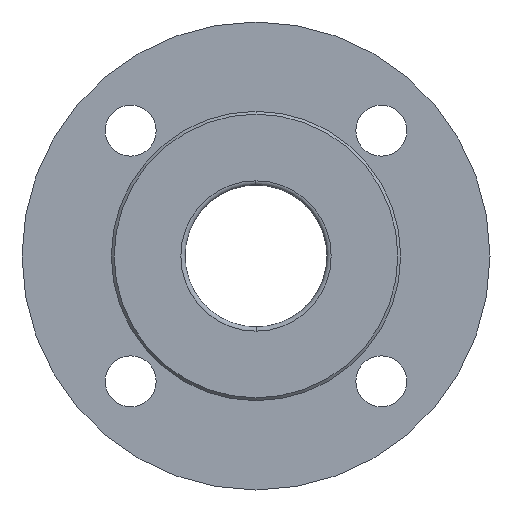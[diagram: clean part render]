
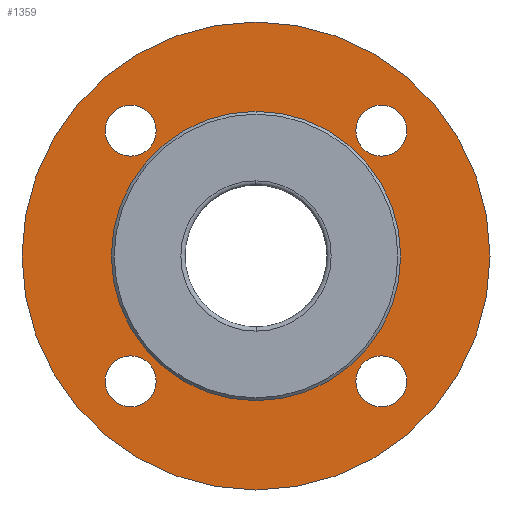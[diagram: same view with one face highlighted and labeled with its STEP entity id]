
A CAD part, left-side view. The second image highlights one B-rep face of the part: STEP entity #1359.
In plain terms, the highlighted planar face has unit normal (-1, 0, 0).
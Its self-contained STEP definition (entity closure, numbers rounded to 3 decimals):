
#239 = VERTEX_POINT ( 'NONE', #685 ) ;
#244 = VERTEX_POINT ( 'NONE', #536 ) ;
#262 = VERTEX_POINT ( 'NONE', #582 ) ;
#264 = VERTEX_POINT ( 'NONE', #718 ) ;
#284 = VERTEX_POINT ( 'NONE', #608 ) ;
#286 = EDGE_CURVE ( 'NONE', #264, #411, #593, .T. ) ;
#347 = EDGE_CURVE ( 'NONE', #389, #262, #823, .T. ) ;
#350 = EDGE_CURVE ( 'NONE', #284, #414, #824, .T. ) ;
#389 = VERTEX_POINT ( 'NONE', #1025 ) ;
#411 = VERTEX_POINT ( 'NONE', #1055 ) ;
#414 = VERTEX_POINT ( 'NONE', #1035 ) ;
#415 = EDGE_CURVE ( 'NONE', #244, #239, #995, .T. ) ;
#458 = VERTEX_POINT ( 'NONE', #1068 ) ;
#486 = EDGE_CURVE ( 'NONE', #529, #528, #1112, .T. ) ;
#488 = VERTEX_POINT ( 'NONE', #1114 ) ;
#528 = VERTEX_POINT ( 'NONE', #1428 ) ;
#529 = VERTEX_POINT ( 'NONE', #1440 ) ;
#536 = CARTESIAN_POINT ( 'NONE',  ( -44.5, 44.194, -35.194 ) ) ;
#582 = CARTESIAN_POINT ( 'NONE',  ( -44.5, -44.194, -53.194 ) ) ;
#593 = CIRCLE ( 'NONE', #631, 9. ) ;
#608 = CARTESIAN_POINT ( 'NONE',  ( -44.5, 44.194, 53.194 ) ) ;
#628 = DIRECTION ( 'NONE',  ( 0., 0., -1. ) ) ;
#629 = DIRECTION ( 'NONE',  ( 1., 0., 0. ) ) ;
#630 = CARTESIAN_POINT ( 'NONE',  ( -44.5, -44.194, 44.194 ) ) ;
#631 = AXIS2_PLACEMENT_3D ( 'NONE', #630, #629, #628 ) ;
#685 = CARTESIAN_POINT ( 'NONE',  ( -44.5, 44.194, -53.194 ) ) ;
#718 = CARTESIAN_POINT ( 'NONE',  ( -44.5, -44.194, 53.194 ) ) ;
#814 = DIRECTION ( 'NONE',  ( 0., 0., -1. ) ) ;
#815 = DIRECTION ( 'NONE',  ( 1., 0., 0. ) ) ;
#816 = CARTESIAN_POINT ( 'NONE',  ( -44.5, 44.194, 44.194 ) ) ;
#817 = AXIS2_PLACEMENT_3D ( 'NONE', #816, #815, #814 ) ;
#819 = DIRECTION ( 'NONE',  ( 0., 0., -1. ) ) ;
#820 = DIRECTION ( 'NONE',  ( 1., 0., 0. ) ) ;
#821 = CARTESIAN_POINT ( 'NONE',  ( -44.5, -44.194, -44.194 ) ) ;
#822 = AXIS2_PLACEMENT_3D ( 'NONE', #821, #820, #819 ) ;
#823 = CIRCLE ( 'NONE', #822, 9. ) ;
#824 = CIRCLE ( 'NONE', #817, 9. ) ;
#992 = DIRECTION ( 'NONE',  ( 0., 0., -1. ) ) ;
#993 = DIRECTION ( 'NONE',  ( 1., 0., 0. ) ) ;
#994 = CARTESIAN_POINT ( 'NONE',  ( -44.5, 44.194, -44.194 ) ) ;
#995 = CIRCLE ( 'NONE', #997, 9. ) ;
#997 = AXIS2_PLACEMENT_3D ( 'NONE', #994, #993, #992 ) ;
#1025 = CARTESIAN_POINT ( 'NONE',  ( -44.5, -44.194, -35.194 ) ) ;
#1035 = CARTESIAN_POINT ( 'NONE',  ( -44.5, 44.194, 35.194 ) ) ;
#1055 = CARTESIAN_POINT ( 'NONE',  ( -44.5, -44.194, 35.194 ) ) ;
#1068 = CARTESIAN_POINT ( 'NONE',  ( -44.5, 0., 51. ) ) ;
#1081 = DIRECTION ( 'NONE',  ( 0., 0., 1. ) ) ;
#1110 = CARTESIAN_POINT ( 'NONE',  ( -44.5, 0., 0. ) ) ;
#1112 = CIRCLE ( 'NONE', #1135, 82.5 ) ;
#1114 = CARTESIAN_POINT ( 'NONE',  ( -44.5, 0., -51. ) ) ;
#1116 = DIRECTION ( 'NONE',  ( -1., 0., 0. ) ) ;
#1135 = AXIS2_PLACEMENT_3D ( 'NONE', #1110, #1116, #1081 ) ;
#1157 = EDGE_CURVE ( 'NONE', #458, #488, #1563, .T. ) ;
#1177 = EDGE_CURVE ( 'NONE', #488, #458, #1492, .T. ) ;
#1178 = EDGE_CURVE ( 'NONE', #262, #389, #1531, .T. ) ;
#1180 = EDGE_CURVE ( 'NONE', #414, #284, #1479, .T. ) ;
#1214 = EDGE_CURVE ( 'NONE', #528, #529, #1547, .T. ) ;
#1223 = EDGE_LOOP ( 'NONE', ( #1358, #1394 ) ) ;
#1225 = EDGE_LOOP ( 'NONE', ( #1276, #1396 ) ) ;
#1241 = EDGE_LOOP ( 'NONE', ( #1357, #1397 ) ) ;
#1276 = ORIENTED_EDGE ( 'NONE', *, *, #350, .T. ) ;
#1277 = ORIENTED_EDGE ( 'NONE', *, *, #486, .T. ) ;
#1282 = EDGE_LOOP ( 'NONE', ( #1285, #1284 ) ) ;
#1283 = ORIENTED_EDGE ( 'NONE', *, *, #1157, .F. ) ;
#1284 = ORIENTED_EDGE ( 'NONE', *, *, #1286, .T. ) ;
#1285 = ORIENTED_EDGE ( 'NONE', *, *, #286, .T. ) ;
#1286 = EDGE_CURVE ( 'NONE', #411, #264, #1505, .T. ) ;
#1287 = EDGE_LOOP ( 'NONE', ( #1283, #1395 ) ) ;
#1329 = EDGE_CURVE ( 'NONE', #239, #244, #1620, .T. ) ;
#1357 = ORIENTED_EDGE ( 'NONE', *, *, #347, .T. ) ;
#1358 = ORIENTED_EDGE ( 'NONE', *, *, #415, .T. ) ;
#1359 = ADVANCED_FACE ( 'NONE', ( #1650, #1647, #1676, #1671, #1670, #1651 ), #1652, .F. ) ;
#1360 = EDGE_LOOP ( 'NONE', ( #1277, #1361 ) ) ;
#1361 = ORIENTED_EDGE ( 'NONE', *, *, #1214, .T. ) ;
#1394 = ORIENTED_EDGE ( 'NONE', *, *, #1329, .T. ) ;
#1395 = ORIENTED_EDGE ( 'NONE', *, *, #1177, .F. ) ;
#1396 = ORIENTED_EDGE ( 'NONE', *, *, #1180, .T. ) ;
#1397 = ORIENTED_EDGE ( 'NONE', *, *, #1178, .T. ) ;
#1428 = CARTESIAN_POINT ( 'NONE',  ( -44.5, 0., -82.5 ) ) ;
#1440 = CARTESIAN_POINT ( 'NONE',  ( -44.5, 0., 82.5 ) ) ;
#1478 = DIRECTION ( 'NONE',  ( 0., 0., 1. ) ) ;
#1479 = CIRCLE ( 'NONE', #1555, 9. ) ;
#1482 = CARTESIAN_POINT ( 'NONE',  ( -44.5, 0., 0. ) ) ;
#1484 = DIRECTION ( 'NONE',  ( 0., 0., -1. ) ) ;
#1485 = DIRECTION ( 'NONE',  ( 1., 0., 0. ) ) ;
#1486 = CARTESIAN_POINT ( 'NONE',  ( -44.5, 44.194, 44.194 ) ) ;
#1492 = CIRCLE ( 'NONE', #1527, 51. ) ;
#1496 = DIRECTION ( 'NONE',  ( 0., 0., -1. ) ) ;
#1497 = DIRECTION ( 'NONE',  ( 1., 0., 0. ) ) ;
#1498 = CARTESIAN_POINT ( 'NONE',  ( -44.5, -44.194, 44.194 ) ) ;
#1504 = AXIS2_PLACEMENT_3D ( 'NONE', #1498, #1497, #1496 ) ;
#1505 = CIRCLE ( 'NONE', #1504, 9. ) ;
#1524 = AXIS2_PLACEMENT_3D ( 'NONE', #1540, #1539, #1538 ) ;
#1525 = CARTESIAN_POINT ( 'NONE',  ( -44.5, 0., 0. ) ) ;
#1526 = DIRECTION ( 'NONE',  ( -1., 0., 0. ) ) ;
#1527 = AXIS2_PLACEMENT_3D ( 'NONE', #1534, #1533, #1532 ) ;
#1531 = CIRCLE ( 'NONE', #1524, 9. ) ;
#1532 = DIRECTION ( 'NONE',  ( 0., 0., 1. ) ) ;
#1533 = DIRECTION ( 'NONE',  ( -1., 0., 0. ) ) ;
#1534 = CARTESIAN_POINT ( 'NONE',  ( -44.5, 0., 0. ) ) ;
#1538 = DIRECTION ( 'NONE',  ( 0., 0., -1. ) ) ;
#1539 = DIRECTION ( 'NONE',  ( 1., 0., 0. ) ) ;
#1540 = CARTESIAN_POINT ( 'NONE',  ( -44.5, -44.194, -44.194 ) ) ;
#1543 = DIRECTION ( 'NONE',  ( 0., 0., 1. ) ) ;
#1544 = DIRECTION ( 'NONE',  ( -1., 0., 0. ) ) ;
#1547 = CIRCLE ( 'NONE', #1556, 82.5 ) ;
#1555 = AXIS2_PLACEMENT_3D ( 'NONE', #1486, #1485, #1484 ) ;
#1556 = AXIS2_PLACEMENT_3D ( 'NONE', #1482, #1544, #1543 ) ;
#1563 = CIRCLE ( 'NONE', #1583, 51. ) ;
#1583 = AXIS2_PLACEMENT_3D ( 'NONE', #1525, #1526, #1478 ) ;
#1620 = CIRCLE ( 'NONE', #1640, 9. ) ;
#1625 = DIRECTION ( 'NONE',  ( 0., 0., -1. ) ) ;
#1626 = DIRECTION ( 'NONE',  ( 1., 0., 0. ) ) ;
#1634 = CARTESIAN_POINT ( 'NONE',  ( -44.5, 44.194, -44.194 ) ) ;
#1640 = AXIS2_PLACEMENT_3D ( 'NONE', #1634, #1626, #1625 ) ;
#1643 = AXIS2_PLACEMENT_3D ( 'NONE', #1669, #1664, #1663 ) ;
#1647 = FACE_BOUND ( 'NONE', #1282, .T. ) ;
#1650 = FACE_BOUND ( 'NONE', #1225, .T. ) ;
#1651 = FACE_OUTER_BOUND ( 'NONE', #1360, .T. ) ;
#1652 = PLANE ( 'NONE',  #1643 ) ;
#1663 = DIRECTION ( 'NONE',  ( 0., 0., -1. ) ) ;
#1664 = DIRECTION ( 'NONE',  ( 1., 0., 0. ) ) ;
#1669 = CARTESIAN_POINT ( 'NONE',  ( -44.5, 51., 0. ) ) ;
#1670 = FACE_BOUND ( 'NONE', #1287, .T. ) ;
#1671 = FACE_BOUND ( 'NONE', #1223, .T. ) ;
#1676 = FACE_BOUND ( 'NONE', #1241, .T. ) ;
